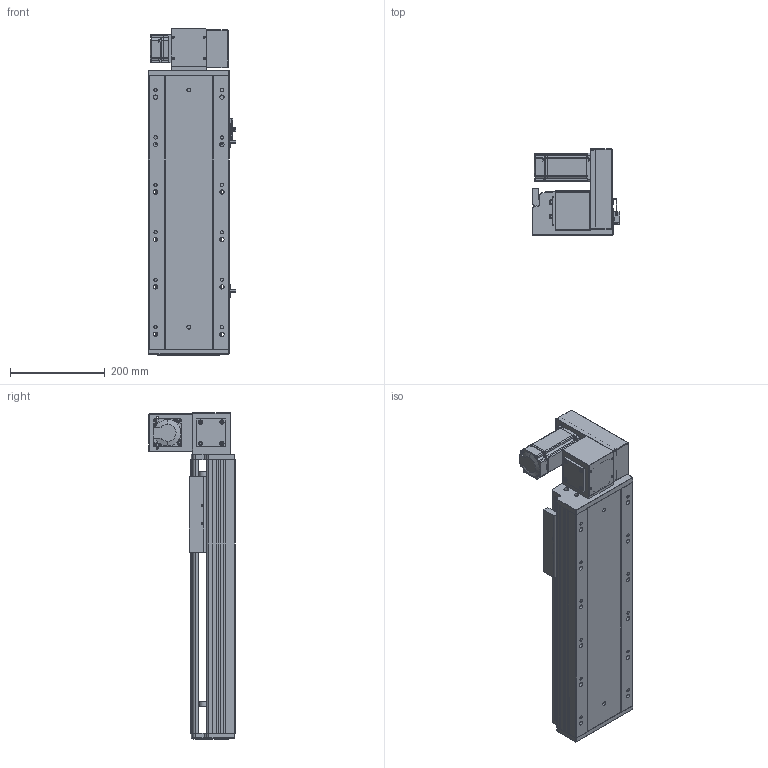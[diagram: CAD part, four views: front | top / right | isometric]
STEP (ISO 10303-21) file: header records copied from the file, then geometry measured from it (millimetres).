
FILE_DESCRIPTION (( 'STEP AP203' ), '1' );
FILE_NAME ('RY170-T-300-UR-P400W.SLDASM_300.step', '2021-03-01T09:26:23', ( '盈信电脑' ), ( '东莞市道滘镇水果街19号' ), 'SwSTEP 2.0', 'SolidWorks 2012', '' );
FILE_SCHEMA (( 'CONFIG_CONTROL_DESIGN' ));
Length unit declared in the file: millimetre
Products named in the file (18): RY170-T-300-UR-P400W.SLDASM_300; RY170-T肮祭謫裔啣; 滅袉蝶18-10; RY170-T蹟翐M4; 15; RY120-T主同步轮轴承压盖; RY170-T肮祭湍揤踡輸2; RY170肮祭謫萇儂欶; RY170-T肮祭湍揤踡輸1; RY170同步轮电机安装板(400W); RY170翋肮祭謫釱; RY170肮祭謫ヶ裔啣; RY170外置感应片(200共用）; RY170-T-300肮祭謫倰第裔啣-DR; 覜茼ん672; RY170綴裔啣; RY170肮祭湍臏賑輸; RY170-T-300肮祭謫倰第菁釱-DR
Assembly tree (22 placements, depth 2):
  RY170-T-300-UR-P400W.SLDASM_300
    RY170-T-300肮祭謫倰第菁釱-DR
    RY170肮祭湍臏賑輸
    RY170-T-300肮祭謫倰第裔啣-DR
    RY170綴裔啣
    覜茼ん672  x3
    RY170外置感应片(200共用）
    RY170肮祭謫ヶ裔啣
    RY170翋肮祭謫釱
    RY170同步轮电机安装板(400W)
    RY170肮祭謫萇儂欶
    RY170-T肮祭湍揤踡輸1  x2
    RY170-T肮祭湍揤踡輸2  x2
    RY120-T主同步轮轴承压盖
    RY170-T肮祭謫裔啣
    RY170-T蹟翐M4
    滅袉蝶18-10  x2
    15
Bounding box: 183.7 x 182 x 688 mm (x, y, z)
Volume: 3990853.5 mm3; surface area: 1312660.3 mm2
Topology: 22 solids, 22 shells, 2620 faces, 7246 edges, 4679 vertices
Faces by surface type: plane 1258, cylinder 1140, cone 192, bspline 30
Entity records: 77384 total; most frequent: CARTESIAN_POINT 16919, ORIENTED_EDGE 12288, DIRECTION 12116, EDGE_CURVE 6144, AXIS2_PLACEMENT_3D 4226, VERTEX_POINT 4035, LINE 3664, VECTOR 3664
